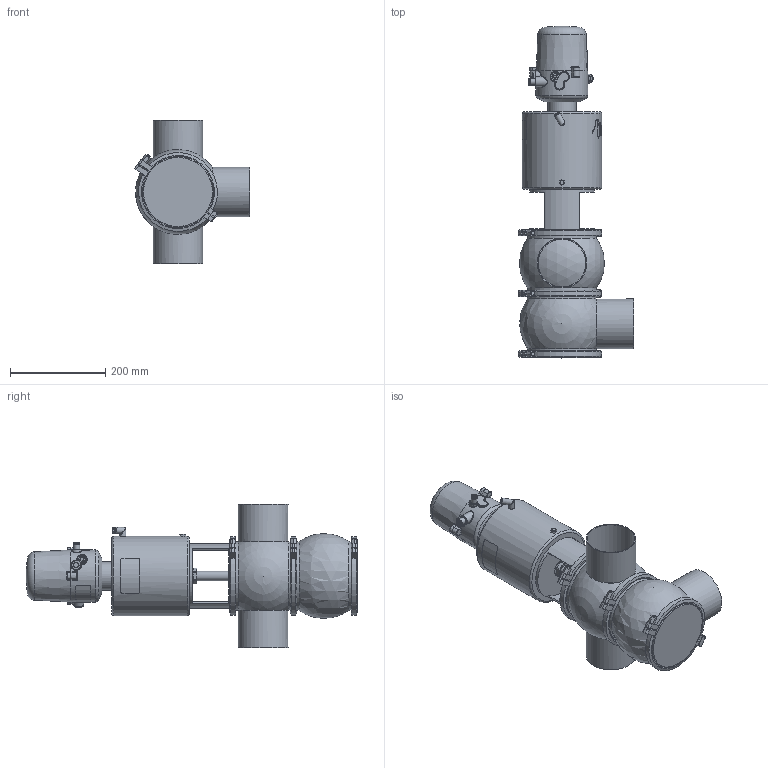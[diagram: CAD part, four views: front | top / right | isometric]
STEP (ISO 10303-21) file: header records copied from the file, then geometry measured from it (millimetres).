
FILE_DESCRIPTION (( 'STEP AP214' ), '1' );
FILE_NAME ('INNOVA M A W DIN 100 T4 AS NC & C-TOP S_10.241.16.0037.STEP', '2024-08-07T07:02:22', ( '' ), ( '' ), 'SwSTEP 2.0', 'SolidWorks 2023', '' );
FILE_SCHEMA (( 'AUTOMOTIVE_DESIGN' ));
Length unit declared in the file: millimetre
Products named in the file (9): INNOVA M A W DIN 100 T4 AS NC & C-TOP S_10.241.16.0037; 10.240.15.0010_DN 100; 10.240.15.0001_DN 100; 10.240.15.0007_DIN 100; 10.240.15.0006_DIN 100; 10.241.15.0001_DIN 100; 10.426.15.0001_C-TOP S - 1 EV; 10.240.15.0014_T4 AS P180; 10.240.15.0017_Estàndard
Assembly tree (10 placements, depth 2):
  INNOVA M A W DIN 100 T4 AS NC & C-TOP S_10.241.16.0037
    10.240.15.0007_DIN 100
    10.240.15.0006_DIN 100
    10.240.15.0010_DN 100
    10.240.15.0014_T4 AS P180
    10.240.15.0017_Estàndard
    10.426.15.0001_C-TOP S - 1 EV
    10.240.15.0001_DN 100  x3
    10.241.15.0001_DIN 100
Bounding box: 241.26 x 695.5 x 300 mm (x, y, z)
Volume: 11059362.8 mm3; surface area: 812611.6 mm2
Topology: 11 solids, 11 shells, 1239 faces, 3023 edges, 2008 vertices
Faces by surface type: plane 443, cylinder 379, cone 211, bspline 160, torus 36, sphere 10
Full cylindrical faces by diameter (mm): 0.371 x17, 0.512 x16, 0.658 x16, 0.795 x16, 0.94 x15, 1.098 x15, 1.241 x13, 1.382 x13, 1.523 x11, 1.669 x10, 2.201 x1, 4 x2, 5.5 x2, 6 x2, 6.15 x1, 8 x8, 8.5 x1, 10 x1, 10.5 x1, 11 x2, 12.5 x3, 13 x2, 13.5 x2, 16 x1, 17 x3, 20 x3, 20.5 x1, 22 x2, 31 x1, 34.5 x3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
Entity records: 58204 total; most frequent: CARTESIAN_POINT 27811, ORIENTED_EDGE 4538, DIRECTION 3685, EDGE_CURVE 2269, VERTEX_POINT 1614, EDGE_LOOP 1575, AXIS2_PLACEMENT_3D 1514, FACE_OUTER_BOUND 1338
